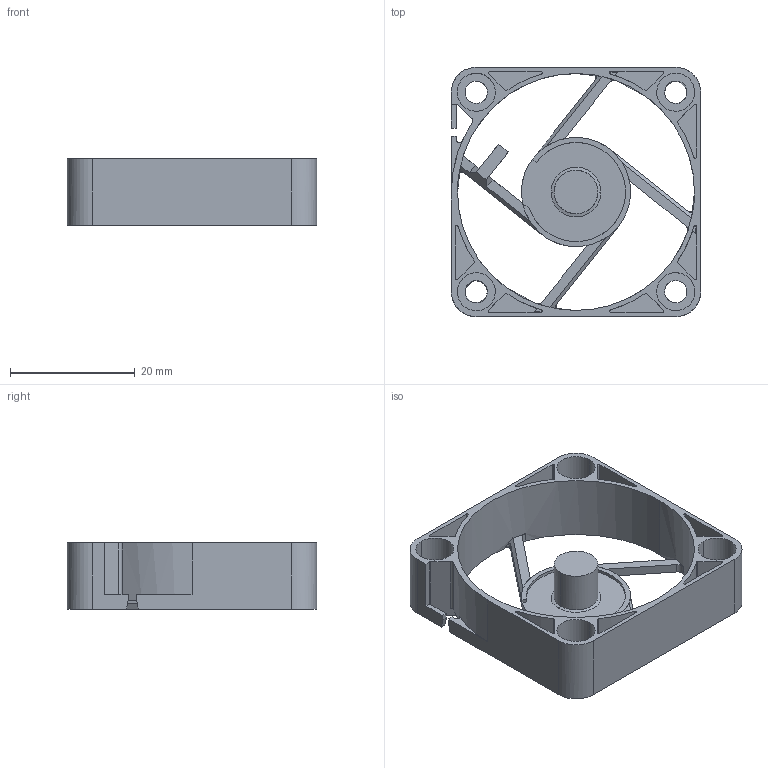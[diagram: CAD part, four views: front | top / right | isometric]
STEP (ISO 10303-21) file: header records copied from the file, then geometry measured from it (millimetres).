
FILE_DESCRIPTION (( 'STEP AP203' ), '1' );
FILE_NAME ('4010B-V.STEP', '2025-09-16T03:32:20', ( '' ), ( '' ), 'SwSTEP 2.0', 'SolidWorks 2024', '' );
FILE_SCHEMA (( 'CONFIG_CONTROL_DESIGN' ));
Length unit declared in the file: millimetre
Products named in the file (1): 4010B-V
Bounding box: 40 x 40 x 10.6 mm (x, y, z)
Volume: 3554.4 mm3; surface area: 6748 mm2
Topology: 1 solids, 1 shells, 156 faces, 437 edges, 291 vertices
Faces by surface type: bspline 156
Entity records: 6417 total; most frequent: CARTESIAN_POINT 3824, ORIENTED_EDGE 874, EDGE_CURVE 437, B_SPLINE_CURVE_WITH_KNOTS 294, VERTEX_POINT 291, EDGE_LOOP 180, FACE_OUTER_BOUND 156, ADVANCED_FACE 156
